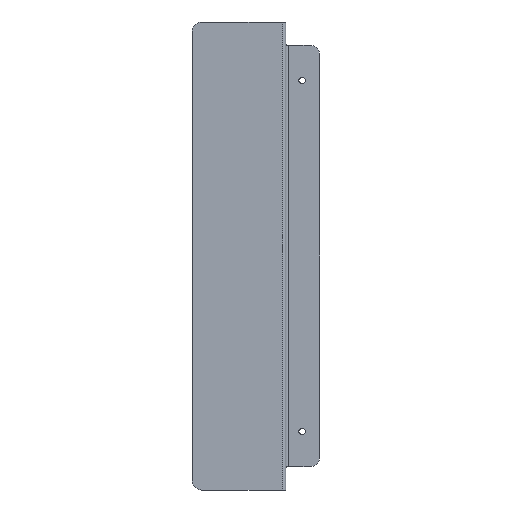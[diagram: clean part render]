
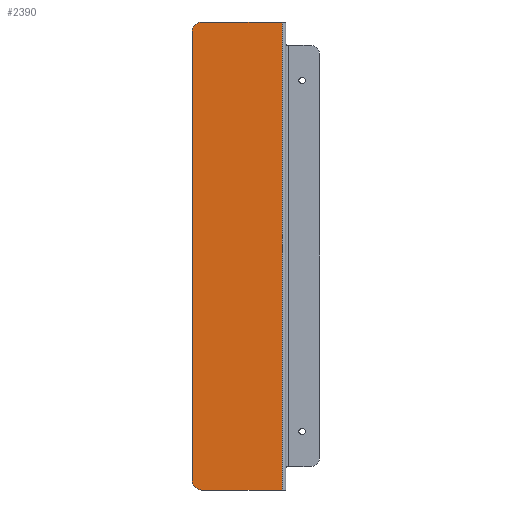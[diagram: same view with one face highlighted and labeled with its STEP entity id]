
A CAD part, left-side view. The second image highlights one B-rep face of the part: STEP entity #2390.
In plain terms, the highlighted planar face has unit normal (-1, 0, 0).
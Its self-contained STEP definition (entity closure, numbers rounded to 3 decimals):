
#13=DIRECTION('',(0.,-1.,0.));
#14=VECTOR('',#13,68.8);
#15=CARTESIAN_POINT('',(0.,-8.,-200.));
#16=LINE('',#15,#14);
#855=DIRECTION('',(0.,-1.,0.));
#856=VECTOR('',#855,68.8);
#857=CARTESIAN_POINT('',(0.,-8.,200.));
#858=LINE('',#857,#856);
#867=CARTESIAN_POINT('',(0.,-8.,192.));
#868=DIRECTION('',(-1.,0.,0.));
#869=DIRECTION('',(0.,0.,1.));
#870=AXIS2_PLACEMENT_3D('',#867,#868,#869);
#872=DIRECTION('',(0.,0.,-1.));
#873=VECTOR('',#872,400.);
#874=CARTESIAN_POINT('',(0.,-76.8,200.));
#875=LINE('',#874,#873);
#876=CARTESIAN_POINT('',(0.,-8.,-192.));
#877=DIRECTION('',(-1.,0.,0.));
#878=DIRECTION('',(0.,1.,0.));
#879=AXIS2_PLACEMENT_3D('',#876,#877,#878);
#881=DIRECTION('',(0.,0.,1.));
#882=VECTOR('',#881,384.);
#883=CARTESIAN_POINT('',(0.,0.,-192.));
#884=LINE('',#883,#882);
#942=CARTESIAN_POINT('',(0.,-76.8,-200.));
#944=VERTEX_POINT('',#942);
#945=CARTESIAN_POINT('',(0.,-76.8,200.));
#946=VERTEX_POINT('',#945);
#949=CARTESIAN_POINT('',(0.,-8.,200.));
#950=CARTESIAN_POINT('',(0.,0.,192.));
#951=VERTEX_POINT('',#949);
#952=VERTEX_POINT('',#950);
#961=CARTESIAN_POINT('',(0.,0.,-192.));
#962=VERTEX_POINT('',#961);
#963=CARTESIAN_POINT('',(0.,-8.,-200.));
#964=VERTEX_POINT('',#963);
#2374=CARTESIAN_POINT('',(0.,0.,-200.));
#2375=DIRECTION('',(-1.,0.,0.));
#2376=DIRECTION('',(0.,-1.,0.));
#2377=AXIS2_PLACEMENT_3D('',#2374,#2375,#2376);
#2378=PLANE('',#2377);
#2380=ORIENTED_EDGE('',*,*,#2379,.F.);
#2381=ORIENTED_EDGE('',*,*,#2349,.T.);
#2382=ORIENTED_EDGE('',*,*,#2367,.T.);
#2383=ORIENTED_EDGE('',*,*,#1224,.F.);
#2385=ORIENTED_EDGE('',*,*,#2384,.F.);
#2387=ORIENTED_EDGE('',*,*,#2386,.T.);
#2388=EDGE_LOOP('',(#2380,#2381,#2382,#2383,#2385,#2387));
#2389=FACE_OUTER_BOUND('',#2388,.F.);
#2390=ADVANCED_FACE('',(#2389),#2378,.T.);
#871=CIRCLE('',#870,8.);
#880=CIRCLE('',#879,8.);
#1224=EDGE_CURVE('',#964,#944,#16,.T.);
#2349=EDGE_CURVE('',#951,#946,#858,.T.);
#2367=EDGE_CURVE('',#946,#944,#875,.T.);
#2379=EDGE_CURVE('',#951,#952,#871,.T.);
#2384=EDGE_CURVE('',#962,#964,#880,.T.);
#2386=EDGE_CURVE('',#962,#952,#884,.T.);
